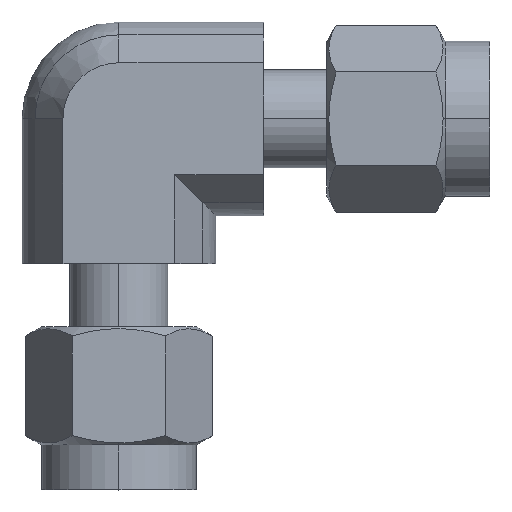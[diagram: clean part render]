
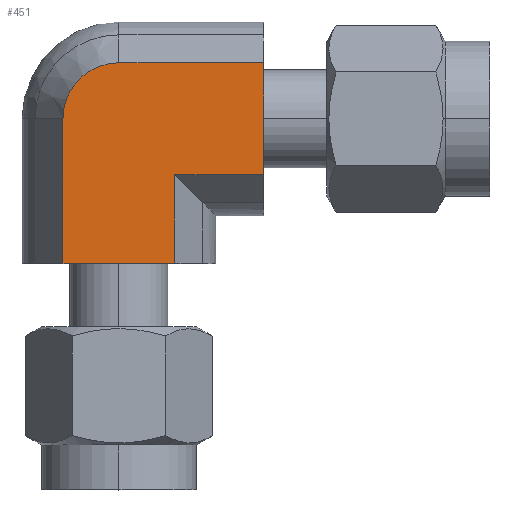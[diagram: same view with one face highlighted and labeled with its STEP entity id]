
A CAD part, top view. The second image highlights one B-rep face of the part: STEP entity #451.
In plain terms, the highlighted planar face has unit normal (0, 0, 1).
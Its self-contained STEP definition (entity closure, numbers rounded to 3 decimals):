
#220 = VERTEX_POINT ( 'NONE', #1071 ) ;
#222 = EDGE_CURVE ( 'NONE', #223, #220, #1070, .T. ) ;
#223 = VERTEX_POINT ( 'NONE', #1066 ) ;
#274 = EDGE_CURVE ( 'NONE', #223, #275, #1112, .T. ) ;
#275 = VERTEX_POINT ( 'NONE', #1105 ) ;
#302 = ORIENTED_EDGE ( 'NONE', *, *, #222, .T. ) ;
#303 = ORIENTED_EDGE ( 'NONE', *, *, #304, .F. ) ;
#304 = EDGE_CURVE ( 'NONE', #305, #220, #1202, .T. ) ;
#305 = VERTEX_POINT ( 'NONE', #1198 ) ;
#306 = ORIENTED_EDGE ( 'NONE', *, *, #307, .F. ) ;
#307 = EDGE_CURVE ( 'NONE', #308, #305, #1197, .T. ) ;
#308 = VERTEX_POINT ( 'NONE', #1193 ) ;
#309 = ORIENTED_EDGE ( 'NONE', *, *, #310, .T. ) ;
#310 = EDGE_CURVE ( 'NONE', #308, #311, #1192, .T. ) ;
#311 = VERTEX_POINT ( 'NONE', #1188 ) ;
#312 = ORIENTED_EDGE ( 'NONE', *, *, #313, .F. ) ;
#313 = EDGE_CURVE ( 'NONE', #314, #311, #1187, .T. ) ;
#314 = VERTEX_POINT ( 'NONE', #1182 ) ;
#315 = ORIENTED_EDGE ( 'NONE', *, *, #316, .F. ) ;
#316 = EDGE_CURVE ( 'NONE', #275, #314, #1181, .T. ) ;
#317 = ORIENTED_EDGE ( 'NONE', *, *, #274, .F. ) ;
#451 = ADVANCED_FACE ( 'NONE', ( #1585 ), #1580, .F. ) ;
#452 = EDGE_LOOP ( 'NONE', ( #302, #303, #306, #309, #312, #315, #317 ) ) ;
#1066 = CARTESIAN_POINT ( 'NONE',  ( 2.742, -7.1, 4.75 ) ) ;
#1067 = DIRECTION ( 'NONE',  ( 0., 1., 0. ) ) ;
#1068 = VECTOR ( 'NONE', #1067, 1000. ) ;
#1069 = CARTESIAN_POINT ( 'NONE',  ( 2.742, -7.1, 4.75 ) ) ;
#1070 = LINE ( 'NONE', #1069, #1068 ) ;
#1071 = CARTESIAN_POINT ( 'NONE',  ( 2.742, -2.742, 4.75 ) ) ;
#1105 = CARTESIAN_POINT ( 'NONE',  ( -2.742, -7.1, 4.75 ) ) ;
#1106 = DIRECTION ( 'NONE',  ( -1., 0., 0. ) ) ;
#1107 = VECTOR ( 'NONE', #1106, 1000. ) ;
#1108 = CARTESIAN_POINT ( 'NONE',  ( 2.742, -7.1, 4.75 ) ) ;
#1112 = LINE ( 'NONE', #1108, #1107 ) ;
#1178 = DIRECTION ( 'NONE',  ( 0., 1., 0. ) ) ;
#1179 = VECTOR ( 'NONE', #1178, 1000. ) ;
#1180 = CARTESIAN_POINT ( 'NONE',  ( -2.742, -7.1, 4.75 ) ) ;
#1181 = LINE ( 'NONE', #1180, #1179 ) ;
#1182 = CARTESIAN_POINT ( 'NONE',  ( -2.742, 0., 4.75 ) ) ;
#1183 = DIRECTION ( 'NONE',  ( 0., 1., 0. ) ) ;
#1184 = DIRECTION ( 'NONE',  ( 0., 0., -1. ) ) ;
#1185 = CARTESIAN_POINT ( 'NONE',  ( 0., 0., 4.75 ) ) ;
#1186 = AXIS2_PLACEMENT_3D ( 'NONE', #1185, #1184, #1183 ) ;
#1187 = CIRCLE ( 'NONE', #1186, 2.742 ) ;
#1188 = CARTESIAN_POINT ( 'NONE',  ( 0., 2.742, 4.75 ) ) ;
#1189 = DIRECTION ( 'NONE',  ( -1., 0., 0. ) ) ;
#1190 = VECTOR ( 'NONE', #1189, 1000. ) ;
#1191 = CARTESIAN_POINT ( 'NONE',  ( 7.1, 2.742, 4.75 ) ) ;
#1192 = LINE ( 'NONE', #1191, #1190 ) ;
#1193 = CARTESIAN_POINT ( 'NONE',  ( 7.1, 2.742, 4.75 ) ) ;
#1194 = DIRECTION ( 'NONE',  ( 0., -1., 0. ) ) ;
#1195 = VECTOR ( 'NONE', #1194, 1000. ) ;
#1196 = CARTESIAN_POINT ( 'NONE',  ( 7.1, 2.742, 4.75 ) ) ;
#1197 = LINE ( 'NONE', #1196, #1195 ) ;
#1198 = CARTESIAN_POINT ( 'NONE',  ( 7.1, -2.742, 4.75 ) ) ;
#1199 = DIRECTION ( 'NONE',  ( -1., 0., 0. ) ) ;
#1200 = VECTOR ( 'NONE', #1199, 1000. ) ;
#1201 = CARTESIAN_POINT ( 'NONE',  ( 7.1, -2.742, 4.75 ) ) ;
#1202 = LINE ( 'NONE', #1201, #1200 ) ;
#1575 = DIRECTION ( 'NONE',  ( 1., 0., 0. ) ) ;
#1576 = DIRECTION ( 'NONE',  ( 0., 0., -1. ) ) ;
#1577 = AXIS2_PLACEMENT_3D ( 'NONE', #1579, #1576, #1575 ) ;
#1579 = CARTESIAN_POINT ( 'NONE',  ( 2.742, -7.1, 4.75 ) ) ;
#1580 = PLANE ( 'NONE',  #1577 ) ;
#1585 = FACE_OUTER_BOUND ( 'NONE', #452, .T. ) ;
